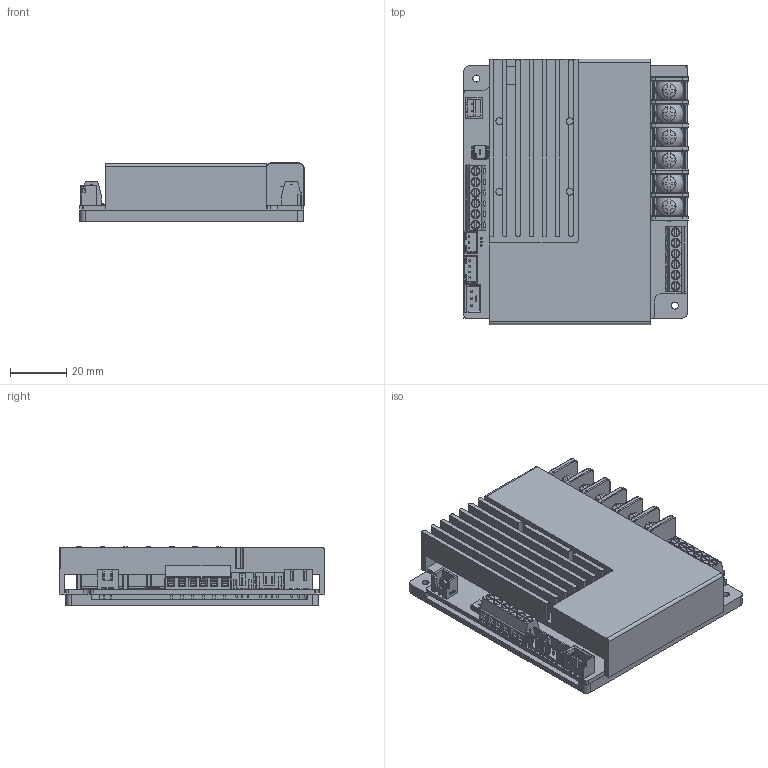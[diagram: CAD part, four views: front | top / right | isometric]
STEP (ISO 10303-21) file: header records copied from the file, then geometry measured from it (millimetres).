
FILE_DESCRIPTION (( 'STEP AP214' ), '1' );
FILE_NAME ('×°ÅäÌå185.STEP', '2025-04-03T06:12:59', ( '' ), ( '' ), 'SwSTEP 2.0', 'SolidWorks 2024', '' );
FILE_SCHEMA (( 'AUTOMOTIVE_DESIGN' ));
Length unit declared in the file: millimetre
Products named in the file (4): TEC2XX_机加_下盖V1.0; TEC2XX_机加_上盖V1.0; 装配体185; 215电路板
Assembly tree (3 placements, depth 2):
  装配体185
    TEC2XX_机加_下盖V1.0
    215电路板
    TEC2XX_机加_上盖V1.0
Bounding box: 79.8 x 94.26 x 20.8 mm (x, y, z)
Volume: 45620.8 mm3; surface area: 73864.3 mm2
Topology: 2 solids, 128 shells, 4885 faces, 12672 edges, 8145 vertices
Faces by surface type: plane 2942, cylinder 817, bspline 808, torus 188, sphere 128, cone 2
Entity records: 210411 total; most frequent: CARTESIAN_POINT 44721, ORIENTED_EDGE 24856, DIRECTION 20188, EDGE_CURVE 12518, LINE 8468, VECTOR 8468, VERTEX_POINT 8077, AXIS2_PLACEMENT_3D 5860
